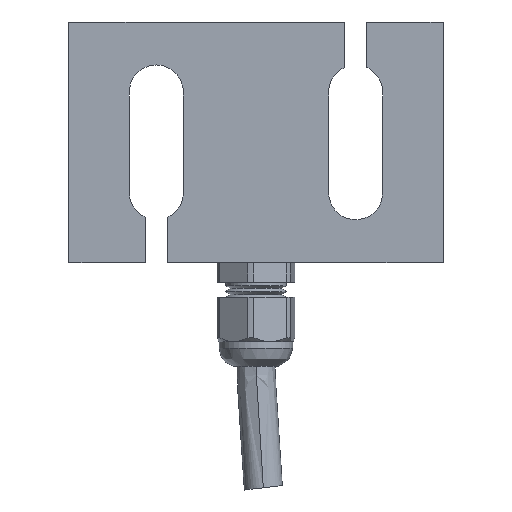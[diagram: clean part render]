
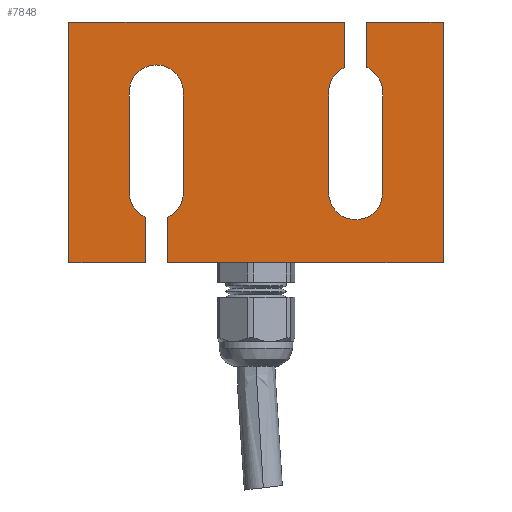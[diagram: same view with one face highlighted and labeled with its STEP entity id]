
A CAD part, left-side view. The second image highlights one B-rep face of the part: STEP entity #7848.
In plain terms, the highlighted planar face has unit normal (-1, 0, 0).
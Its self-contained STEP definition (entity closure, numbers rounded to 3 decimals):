
#710=PLANE('',#8538);
#968=FACE_OUTER_BOUND('',#1515,.T.);
#1515=EDGE_LOOP('',(#6032,#6033,#6034,#6035,#6036,#6037,#6038,#6039,#6040,
#6041,#6042,#6043,#6044,#6045,#6046,#6047,#6048,#6049,#6050,#6051));
#2005=LINE('',#11119,#2604);
#2083=LINE('',#12854,#2682);
#2084=LINE('',#12856,#2683);
#2085=LINE('',#12858,#2684);
#2086=LINE('',#12860,#2685);
#2087=LINE('',#12862,#2686);
#2088=LINE('',#12866,#2687);
#2089=LINE('',#12870,#2688);
#2090=LINE('',#12873,#2689);
#2091=LINE('',#12875,#2690);
#2092=LINE('',#12877,#2691);
#2093=LINE('',#12879,#2692);
#2094=LINE('',#12883,#2693);
#2095=LINE('',#12886,#2694);
#2604=VECTOR('',#9350,1000.);
#2682=VECTOR('',#9526,1000.);
#2683=VECTOR('',#9527,1000.);
#2684=VECTOR('',#9528,1000.);
#2685=VECTOR('',#9529,1000.);
#2686=VECTOR('',#9530,1000.);
#2687=VECTOR('',#9533,1000.);
#2688=VECTOR('',#9536,1000.);
#2689=VECTOR('',#9539,1000.);
#2690=VECTOR('',#9540,1000.);
#2691=VECTOR('',#9541,1000.);
#2692=VECTOR('',#9542,1000.);
#2693=VECTOR('',#9545,1000.);
#2694=VECTOR('',#9548,1000.);
#3282=CIRCLE('',#8539,5.5);
#3283=CIRCLE('',#8540,5.5);
#3284=CIRCLE('',#8541,5.5);
#3285=CIRCLE('',#8542,5.5);
#3286=CIRCLE('',#8543,5.5);
#3287=CIRCLE('',#8544,5.5);
#3492=VERTEX_POINT('',#11116);
#3493=VERTEX_POINT('',#11118);
#3753=VERTEX_POINT('',#12850);
#3754=VERTEX_POINT('',#12851);
#3755=VERTEX_POINT('',#12853);
#3756=VERTEX_POINT('',#12855);
#3757=VERTEX_POINT('',#12857);
#3758=VERTEX_POINT('',#12859);
#3759=VERTEX_POINT('',#12861);
#3760=VERTEX_POINT('',#12863);
#3761=VERTEX_POINT('',#12865);
#3762=VERTEX_POINT('',#12867);
#3763=VERTEX_POINT('',#12869);
#3764=VERTEX_POINT('',#12871);
#3765=VERTEX_POINT('',#12874);
#3766=VERTEX_POINT('',#12876);
#3767=VERTEX_POINT('',#12878);
#3768=VERTEX_POINT('',#12880);
#3769=VERTEX_POINT('',#12882);
#3770=VERTEX_POINT('',#12884);
#4358=EDGE_CURVE('',#3493,#3492,#2005,.T.);
#4619=EDGE_CURVE('',#3753,#3754,#3282,.T.);
#4620=EDGE_CURVE('',#3754,#3755,#2083,.T.);
#4621=EDGE_CURVE('',#3755,#3756,#2084,.T.);
#4622=EDGE_CURVE('',#3756,#3757,#2085,.T.);
#4623=EDGE_CURVE('',#3757,#3758,#2086,.T.);
#4624=EDGE_CURVE('',#3758,#3759,#2087,.T.);
#4625=EDGE_CURVE('',#3759,#3760,#3283,.T.);
#4626=EDGE_CURVE('',#3760,#3761,#2088,.T.);
#4627=EDGE_CURVE('',#3761,#3762,#3284,.T.);
#4628=EDGE_CURVE('',#3762,#3763,#2089,.T.);
#4629=EDGE_CURVE('',#3763,#3764,#3285,.T.);
#4630=EDGE_CURVE('',#3764,#3493,#2090,.T.);
#4631=EDGE_CURVE('',#3492,#3765,#2091,.T.);
#4632=EDGE_CURVE('',#3765,#3766,#2092,.T.);
#4633=EDGE_CURVE('',#3766,#3767,#2093,.T.);
#4634=EDGE_CURVE('',#3767,#3768,#3286,.T.);
#4635=EDGE_CURVE('',#3768,#3769,#2094,.T.);
#4636=EDGE_CURVE('',#3769,#3770,#3287,.T.);
#4637=EDGE_CURVE('',#3770,#3753,#2095,.T.);
#6032=ORIENTED_EDGE('',*,*,#4619,.T.);
#6033=ORIENTED_EDGE('',*,*,#4620,.T.);
#6034=ORIENTED_EDGE('',*,*,#4621,.T.);
#6035=ORIENTED_EDGE('',*,*,#4622,.T.);
#6036=ORIENTED_EDGE('',*,*,#4623,.T.);
#6037=ORIENTED_EDGE('',*,*,#4624,.T.);
#6038=ORIENTED_EDGE('',*,*,#4625,.T.);
#6039=ORIENTED_EDGE('',*,*,#4626,.T.);
#6040=ORIENTED_EDGE('',*,*,#4627,.T.);
#6041=ORIENTED_EDGE('',*,*,#4628,.T.);
#6042=ORIENTED_EDGE('',*,*,#4629,.T.);
#6043=ORIENTED_EDGE('',*,*,#4630,.T.);
#6044=ORIENTED_EDGE('',*,*,#4358,.T.);
#6045=ORIENTED_EDGE('',*,*,#4631,.T.);
#6046=ORIENTED_EDGE('',*,*,#4632,.T.);
#6047=ORIENTED_EDGE('',*,*,#4633,.T.);
#6048=ORIENTED_EDGE('',*,*,#4634,.T.);
#6049=ORIENTED_EDGE('',*,*,#4635,.T.);
#6050=ORIENTED_EDGE('',*,*,#4636,.T.);
#6051=ORIENTED_EDGE('',*,*,#4637,.T.);
#7848=ADVANCED_FACE('',(#968),#710,.T.);
#8538=AXIS2_PLACEMENT_3D('',#12849,#9522,#9523);
#8539=AXIS2_PLACEMENT_3D('',#12852,#9524,#9525);
#8540=AXIS2_PLACEMENT_3D('',#12864,#9531,#9532);
#8541=AXIS2_PLACEMENT_3D('',#12868,#9534,#9535);
#8542=AXIS2_PLACEMENT_3D('',#12872,#9537,#9538);
#8543=AXIS2_PLACEMENT_3D('',#12881,#9543,#9544);
#8544=AXIS2_PLACEMENT_3D('',#12885,#9546,#9547);
#9350=DIRECTION('',(0.,1.,0.));
#9522=DIRECTION('center_axis',(-1.,0.,0.));
#9523=DIRECTION('ref_axis',(0.,0.,
1.));
#9524=DIRECTION('center_axis',(1.,0.,0.));
#9525=DIRECTION('ref_axis',(0.,0.,
1.));
#9526=DIRECTION('',(0.,0.,-1.));
#9527=DIRECTION('',(0.,-1.,0.));
#9528=DIRECTION('',(0.,0.,1.));
#9529=DIRECTION('',(0.,1.,0.));
#9530=DIRECTION('',(0.,0.,-1.));
#9531=DIRECTION('center_axis',(1.,0.,0.));
#9532=DIRECTION('ref_axis',(0.,0.,
1.));
#9533=DIRECTION('',(0.,0.,-1.));
#9534=DIRECTION('center_axis',(1.,0.,0.));
#9535=DIRECTION('ref_axis',(0.,0.,
1.));
#9536=DIRECTION('',(0.,0.,1.));
#9537=DIRECTION('center_axis',(1.,0.,0.));
#9538=DIRECTION('ref_axis',(0.,0.,
1.));
#9539=DIRECTION('',(0.,0.,1.));
#9540=DIRECTION('',(0.,0.,-1.));
#9541=DIRECTION('',(0.,-1.,0.));
#9542=DIRECTION('',(0.,0.,1.));
#9543=DIRECTION('center_axis',(1.,0.,0.));
#9544=DIRECTION('ref_axis',(0.,0.,
1.));
#9545=DIRECTION('',(0.,0.,1.));
#9546=DIRECTION('center_axis',(1.,0.,0.));
#9547=DIRECTION('ref_axis',(0.,0.,
1.));
#9548=DIRECTION('',(0.,0.,-1.));
#11116=CARTESIAN_POINT('',(-30.,32.014,49.));
#11118=CARTESIAN_POINT('',(-30.,-24.086,49.));
#11119=CARTESIAN_POINT('',(-30.,-24.086,49.));
#12849=CARTESIAN_POINT('Origin',(-30.,14.214,14.25));
#12850=CARTESIAN_POINT('',(-30.,8.714,14.25));
#12851=CARTESIAN_POINT('',(-30.,11.914,9.254));
#12852=CARTESIAN_POINT('Origin',(-30.,14.214,14.25));
#12853=CARTESIAN_POINT('',(-30.,11.914,0.));
#12854=CARTESIAN_POINT('',(-30.,11.914,9.254));
#12855=CARTESIAN_POINT('',(-30.,-44.186,0.));
#12856=CARTESIAN_POINT('',(-30.,11.914,0.));
#12857=CARTESIAN_POINT('',(-30.,-44.186,49.));
#12858=CARTESIAN_POINT('',(-30.,-44.186,0.));
#12859=CARTESIAN_POINT('',(-30.,-28.586,49.));
#12860=CARTESIAN_POINT('',(-30.,-44.186,49.));
#12861=CARTESIAN_POINT('',(-30.,-28.586,39.791));
#12862=CARTESIAN_POINT('',(-30.,-28.586,49.));
#12863=CARTESIAN_POINT('',(-30.,-31.886,34.75));
#12864=CARTESIAN_POINT('Origin',(-30.,-26.386,34.75));
#12865=CARTESIAN_POINT('',(-30.,-31.886,14.25));
#12866=CARTESIAN_POINT('',(-30.,-31.886,14.25));
#12867=CARTESIAN_POINT('',(-30.,-20.886,14.25));
#12868=CARTESIAN_POINT('Origin',(-30.,-26.386,14.25));
#12869=CARTESIAN_POINT('',(-30.,-20.886,34.75));
#12870=CARTESIAN_POINT('',(-30.,-20.886,14.25));
#12871=CARTESIAN_POINT('',(-30.,-24.086,39.746));
#12872=CARTESIAN_POINT('Origin',(-30.,-26.386,34.75));
#12873=CARTESIAN_POINT('',(-30.,-24.086,39.746));
#12874=CARTESIAN_POINT('',(-30.,32.014,0.));
#12875=CARTESIAN_POINT('',(-30.,32.014,49.));
#12876=CARTESIAN_POINT('',(-30.,16.414,0.));
#12877=CARTESIAN_POINT('',(-30.,32.014,0.));
#12878=CARTESIAN_POINT('',(-30.,16.414,9.209));
#12879=CARTESIAN_POINT('',(-30.,16.414,0.));
#12880=CARTESIAN_POINT('',(-30.,19.714,14.25));
#12881=CARTESIAN_POINT('Origin',(-30.,14.214,14.25));
#12882=CARTESIAN_POINT('',(-30.,19.714,34.75));
#12883=CARTESIAN_POINT('',(-30.,19.714,34.75));
#12884=CARTESIAN_POINT('',(-30.,8.714,34.75));
#12885=CARTESIAN_POINT('Origin',(-30.,14.214,34.75));
#12886=CARTESIAN_POINT('',(-30.,8.714,34.75));
